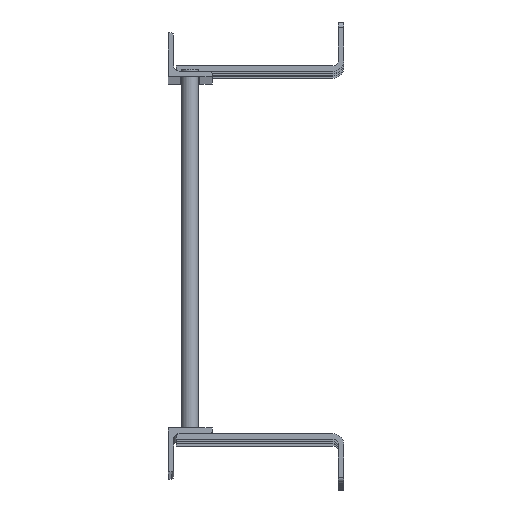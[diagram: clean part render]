
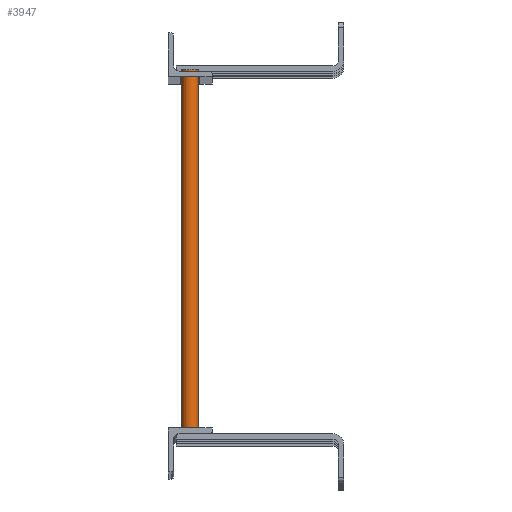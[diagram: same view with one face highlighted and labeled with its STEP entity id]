
A CAD part, top view. The second image highlights one B-rep face of the part: STEP entity #3947.
In plain terms, the highlighted cylindrical face has radius 9.525 mm (diameter 19.05 mm), a full revolution.
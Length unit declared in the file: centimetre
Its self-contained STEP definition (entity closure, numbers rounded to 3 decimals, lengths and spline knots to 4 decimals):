
#821=FACE_BOUND('',#1404,.T.);
#1040=FACE_OUTER_BOUND('',#1403,.T.);
#1403=EDGE_LOOP('',(#3387));
#1404=EDGE_LOOP('',(#3388));
#1617=CIRCLE('',#4399,0.9525);
#1618=CIRCLE('',#4400,0.9525);
#1967=VERTEX_POINT('',#6573);
#1968=VERTEX_POINT('',#6575);
#2441=EDGE_CURVE('',#1967,#1967,#1617,.T.);
#2442=EDGE_CURVE('',#1968,#1968,#1618,.T.);
#3387=ORIENTED_EDGE('',*,*,#2441,.T.);
#3388=ORIENTED_EDGE('',*,*,#2442,.F.);
#3488=CYLINDRICAL_SURFACE('',#4398,0.9525);
#3947=ADVANCED_FACE('',(#1040,#821),#3488,.T.);
#4398=AXIS2_PLACEMENT_3D('',#6572,#5523,#5524);
#4399=AXIS2_PLACEMENT_3D('',#6574,#5525,#5526);
#4400=AXIS2_PLACEMENT_3D('',#6576,#5527,#5528);
#5523=DIRECTION('center_axis',(0.,-1.,0.));
#5524=DIRECTION('ref_axis',(1.,0.,0.));
#5525=DIRECTION('center_axis',(0.,1.,0.));
#5526=DIRECTION('ref_axis',(1.,0.,0.));
#5527=DIRECTION('center_axis',(0.,1.,0.));
#5528=DIRECTION('ref_axis',(1.,0.,0.));
#6572=CARTESIAN_POINT('Origin',(2.54,0.7938,491.49));
#6573=CARTESIAN_POINT('',(1.5875,-41.1162,491.49));
#6574=CARTESIAN_POINT('Origin',(2.54,-41.1162,491.49));
#6575=CARTESIAN_POINT('',(1.5875,0.7938,491.49));
#6576=CARTESIAN_POINT('Origin',(2.54,0.7938,491.49));
